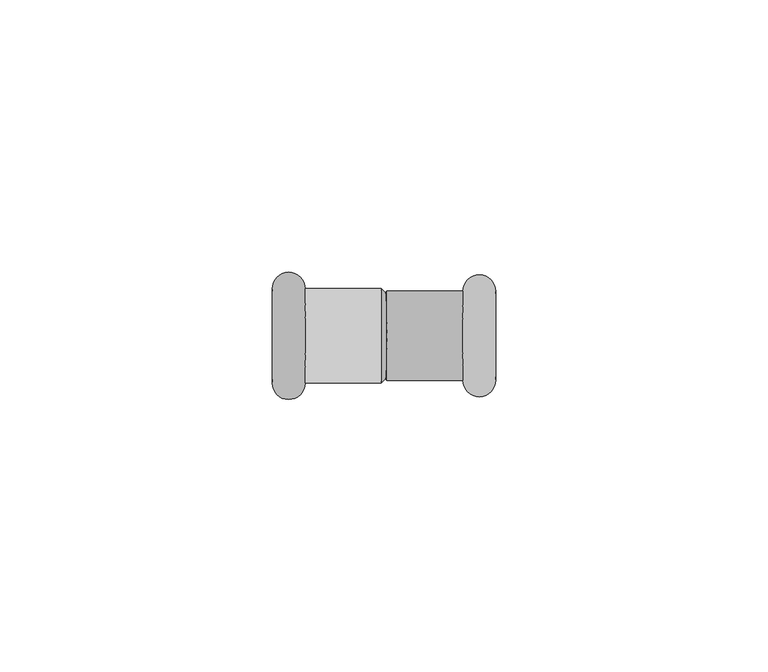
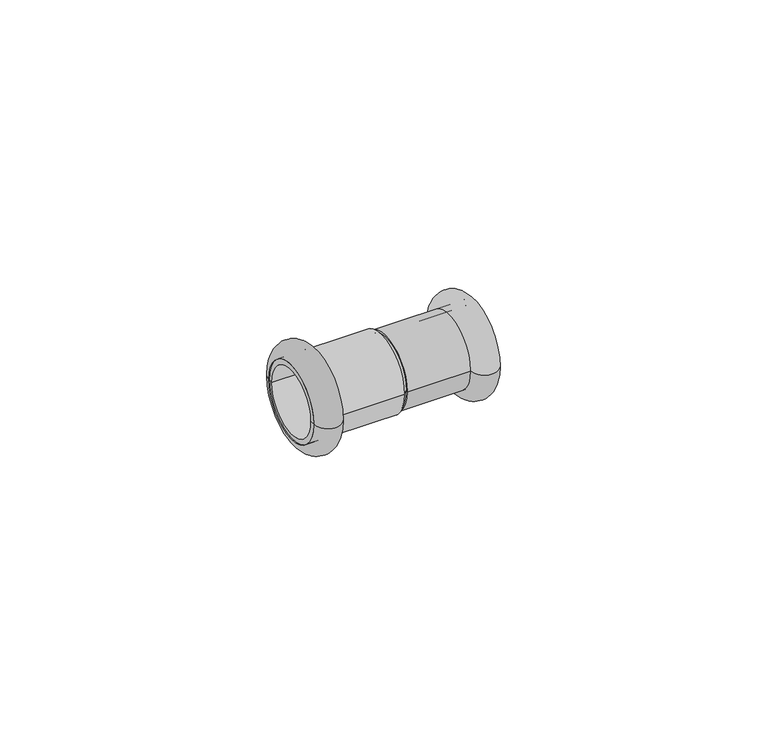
"""IFC4 building model written with IfcOpenShell, lengths in millimetres: pipe fitting geometry, NLRS_50_PIF_UN_Geberit Mapress koper verloopsok_PRO_103281 : DN12-15 / d15-18 - OD."""

from ifc_helpers import new_model, si_unit, point, frame, origin, place, context, project, spatial, polyline, circle_curve, ellipse_curve, trimmed, source, transform, mapped, element, save
from ifc_brep_helpers import plane_surface, cylinder_surface, revolved_surface, advanced_brep


def pipe_fitting_6f0e400b(model_context):
    return source(origin(), model_context, "Body", "AdvancedBrep", [
        advanced_brep(
        [(-20.5, -8.7, 0.0), (-14.5, -8.7, 0.0), (-14.5, 8.7, 0.0), (-20.5, 8.7, 0.0)],
        [
            (0, 1),
            (1, 2, circle_curve(frame((-14.5, 0.0, 0.0), z_axis=(1.0, 0.0, 0.0), x_axis=(0.0, 1.0, 0.0)), 8.7)),
            (2, 3),
            (3, 0, circle_curve(frame((-20.5, 0.0, 0.0), z_axis=(-1.0, 0.0, 0.0), x_axis=(0.0, 1.0, 0.0)), 8.7)),
            (2, 1, circle_curve(frame((-14.5, 0.0, 0.0), z_axis=(1.0, 0.0, 0.0), x_axis=(0.0, 1.0, 0.0)), 8.7)),
            (0, 3, circle_curve(frame((-20.5, 0.0, 0.0), z_axis=(-1.0, 0.0, 0.0), x_axis=(0.0, 1.0, 0.0)), 8.7)),
            (1, 0, circle_curve(frame((-17.5, -8.7, 0.0), z_axis=(0.0, 0.0, -1.0), x_axis=(-1.0, 0.0, 0.0)), 3.0)),
            (3, 2, circle_curve(frame((-17.5, 8.7, 0.0), z_axis=(0.0, 0.0, -1.0), x_axis=(-1.0, 0.0, 0.0)), 3.0)),
        ],
        [
            revolved_surface(polyline([(-14.499999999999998, 8.7, 0.0), (-20.5, 8.7, 0.0)]), (9.8779068, 0.0, 0.0), (1.0, 0.0, 0.0)),
            revolved_surface(trimmed(ellipse_curve(frame((-17.5, 8.7, 0.0), z_axis=(0.0, 0.0, -1.0), x_axis=(-1.0, 0.0, 0.0)), 3.0, 3.0), [point((-20.5, 8.7, 0.0))], [point((-14.5, 8.7, 0.0))], True, "CARTESIAN"), (9.8779068, 0.0, 0.0), (1.0, 0.0, 0.0)),
        ],
        [
            (0, [[1, 2, 3, 4]]),
            (0, [[-3, 5, -1, 6]]),
            (1, [[7, -4, 8, -2]]),
            (1, [[-8, -6, -7, -5]]),
        ],
    ),
        advanced_brep(
        [(-20.5, -7.5, 0.0), (0.7, -7.5, 0.0), (0.7, 7.5, 0.0), (-20.5, 7.5, 0.0), (-0.5, -8.7, 0.0), (-20.5, -8.7, 0.0), (-20.5, 8.7, 0.0), (-0.5, 8.7, 0.0)],
        [
            (0, 1),
            (1, 2, circle_curve(frame((0.7, 0.0, 0.0), z_axis=(1.0, 0.0, 0.0), x_axis=(0.0, 1.0, 0.0)), 7.5)),
            (2, 3),
            (3, 0, circle_curve(frame((-20.5, 0.0, 0.0), z_axis=(-1.0, 0.0, 0.0), x_axis=(0.0, 1.0, 0.0)), 7.5)),
            (2, 1, circle_curve(frame((0.7, 0.0, 0.0), z_axis=(1.0, 0.0, 0.0), x_axis=(0.0, 1.0, 0.0)), 7.5)),
            (0, 3, circle_curve(frame((-20.5, 0.0, 0.0), z_axis=(-1.0, 0.0, 0.0), x_axis=(0.0, 1.0, 0.0)), 7.5)),
            (4, 5),
            (5, 6, circle_curve(frame((-20.5, 0.0, 0.0), z_axis=(1.0, 0.0, 0.0), x_axis=(0.0, 1.0, 0.0)), 8.7)),
            (6, 7),
            (7, 4, circle_curve(frame((-0.5, 0.0, 0.0), z_axis=(-1.0, 0.0, 0.0), x_axis=(0.0, 1.0, 0.0)), 8.7)),
            (6, 5, circle_curve(frame((-20.5, 0.0, 0.0), z_axis=(1.0, 0.0, 0.0), x_axis=(0.0, 1.0, 0.0)), 8.7)),
            (4, 7, circle_curve(frame((-0.5, 0.0, 0.0), z_axis=(-1.0, 0.0, 0.0), x_axis=(0.0, 1.0, 0.0)), 8.7)),
            (5, 0),
            (3, 6),
            (1, 4),
            (7, 2),
        ],
        [
            revolved_surface(polyline([(0.7, 7.5, 0.0), (-20.5, 7.5, 0.0)]), (-0.5, 0.0, 0.0), (1.0, 0.0, 0.0)),
            cylinder_surface(frame((-0.5, 0.0, 0.0), z_axis=(1.0, 0.0, 0.0), x_axis=(0.0, 1.0, 0.0)), 8.7),
            plane_surface(frame((-20.5, 0.0, 0.0), z_axis=(-1.0, 0.0, 0.0), x_axis=(0.0, 1.0, 0.0))),
            revolved_surface(polyline([(-0.5, 8.7, 0.0), (0.7, 7.5, 0.0)]), (-0.5, 0.0, 0.0), (1.0, 0.0, 0.0)),
        ],
        [
            (0, [[1, 2, 3, 4]]),
            (0, [[-3, 5, -1, 6]]),
            (1, [[7, 8, 9, 10]]),
            (1, [[-9, 11, -7, 12]]),
            (2, [[13, -4, 14, -8]]),
            (2, [[-14, -6, -13, -11]]),
            (3, [[15, -10, 16, -2]]),
            (3, [[-16, -12, -15, -5]]),
        ],
    ),
        advanced_brep(
        [(20.5, -8.2, 0.0), (20.5, 8.2, 0.0), (14.5, 8.2, 0.0), (14.5, -8.2, 0.0)],
        [
            (0, 1, circle_curve(frame((20.5, 0.0, 0.0), z_axis=(1.0, 0.0, 0.0), x_axis=(0.0, 1.0, 0.0)), 8.2)),
            (1, 2),
            (2, 3, circle_curve(frame((14.5, 0.0, 0.0), z_axis=(-1.0, 0.0, 0.0), x_axis=(0.0, 1.0, 0.0)), 8.2)),
            (3, 0),
            (1, 0, circle_curve(frame((20.5, 0.0, 0.0), z_axis=(1.0, 0.0, 0.0), x_axis=(0.0, 1.0, 0.0)), 8.2)),
            (3, 2, circle_curve(frame((14.5, 0.0, 0.0), z_axis=(-1.0, 0.0, 0.0), x_axis=(0.0, 1.0, 0.0)), 8.2)),
            (2, 1, circle_curve(frame((17.5, 8.2, 0.0), z_axis=(0.0, 0.0, -1.0), x_axis=(1.0, 0.0, 0.0)), 3.0)),
            (0, 3, circle_curve(frame((17.5, -8.2, 0.0), z_axis=(0.0, 0.0, -1.0), x_axis=(1.0, 0.0, 0.0)), 3.0)),
        ],
        [
            revolved_surface(polyline([(14.499999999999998, 8.2, 0.0), (20.5, 8.2, 0.0)]), (-9.8779068, 0.0, 0.0), (-1.0, 0.0, 0.0)),
            revolved_surface(trimmed(ellipse_curve(frame((17.5, 8.2, 0.0), z_axis=(0.0, 0.0, 1.0), x_axis=(1.0, 0.0, 0.0)), 3.0, 3.0), [point((20.5, 8.2, 0.0))], [point((14.5, 8.2, 0.0))], True, "CARTESIAN"), (-9.8779068, 0.0, 0.0), (-1.0, 0.0, 0.0)),
        ],
        [
            (0, [[1, 2, 3, 4]]),
            (0, [[5, -4, 6, -2]]),
            (1, [[-3, 7, -1, 8]]),
            (1, [[-6, -8, -5, -7]]),
        ],
    ),
        advanced_brep(
        [(20.5, -7.0, 0.0), (20.5, 7.0, 0.0), (-0.7, 7.0, 0.0), (-0.7, -7.0, 0.0), (0.5, -8.2, 0.0), (0.5, 8.2, 0.0), (20.5, 8.2, 0.0), (20.5, -8.2, 0.0)],
        [
            (0, 1, circle_curve(frame((20.5, 0.0, 0.0), z_axis=(1.0, 0.0, 0.0), x_axis=(0.0, 1.0, 0.0)), 7.0)),
            (1, 2),
            (2, 3, circle_curve(frame((-0.7, 0.0, 0.0), z_axis=(-1.0, 0.0, 0.0), x_axis=(0.0, 1.0, 0.0)), 7.0)),
            (3, 0),
            (1, 0, circle_curve(frame((20.5, 0.0, 0.0), z_axis=(1.0, 0.0, 0.0), x_axis=(0.0, 1.0, 0.0)), 7.0)),
            (3, 2, circle_curve(frame((-0.7, 0.0, 0.0), z_axis=(-1.0, 0.0, 0.0), x_axis=(0.0, 1.0, 0.0)), 7.0)),
            (4, 5, circle_curve(frame((0.5, 0.0, 0.0), z_axis=(1.0, 0.0, 0.0), x_axis=(0.0, 1.0, 0.0)), 8.2)),
            (5, 6),
            (6, 7, circle_curve(frame((20.5, 0.0, 0.0), z_axis=(-1.0, 0.0, 0.0), x_axis=(0.0, 1.0, 0.0)), 8.2)),
            (7, 4),
            (5, 4, circle_curve(frame((0.5, 0.0, 0.0), z_axis=(1.0, 0.0, 0.0), x_axis=(0.0, 1.0, 0.0)), 8.2)),
            (7, 6, circle_curve(frame((20.5, 0.0, 0.0), z_axis=(-1.0, 0.0, 0.0), x_axis=(0.0, 1.0, 0.0)), 8.2)),
            (6, 1),
            (0, 7),
            (2, 5),
            (4, 3),
        ],
        [
            revolved_surface(polyline([(-0.7, 7.0, 0.0), (20.5, 7.0, 0.0)]), (0.5, 0.0, 0.0), (-1.0, 0.0, 0.0)),
            cylinder_surface(frame((0.5, 0.0, 0.0), z_axis=(-1.0, 0.0, 0.0), x_axis=(0.0, 1.0, 0.0)), 8.2),
            plane_surface(frame((20.5, 0.0, 0.0), z_axis=(1.0, 0.0, 0.0), x_axis=(0.0, 1.0, 0.0))),
            revolved_surface(polyline([(0.5, 8.2, 0.0), (-0.7, 7.0, 0.0)]), (0.5, 0.0, 0.0), (-1.0, 0.0, 0.0)),
        ],
        [
            (0, [[1, 2, 3, 4]]),
            (0, [[5, -4, 6, -2]]),
            (1, [[7, 8, 9, 10]]),
            (1, [[11, -10, 12, -8]]),
            (2, [[-9, 13, -1, 14]]),
            (2, [[-12, -14, -5, -13]]),
            (3, [[-3, 15, -7, 16]]),
            (3, [[-6, -16, -11, -15]]),
        ],
    ),
        advanced_brep(
        [(0.5, -6.0, 0.0), (0.5, 6.0, 0.0), (-0.5, -8.7, 0.0), (-0.5, 8.7, 0.0)],
        [
            (0, 1, circle_curve(frame((0.5, 0.0, 0.0), z_axis=(1.0, 0.0, 0.0), x_axis=(0.0, -1.0, 0.0)), 6.0)),
            (1, 0, circle_curve(frame((0.5, 0.0, 0.0), z_axis=(1.0, 0.0, 0.0), x_axis=(0.0, 1.0, 0.0)), 6.0)),
            (2, 3, circle_curve(frame((-0.5, 0.0, 0.0), z_axis=(-1.0, 0.0, 0.0), x_axis=(0.0, 1.0, 0.0)), 8.7)),
            (3, 2, circle_curve(frame((-0.5, 0.0, 0.0), z_axis=(-1.0, 0.0, 0.0), x_axis=(0.0, -1.0, 0.0)), 8.7)),
            (3, 1),
            (0, 2),
        ],
        [
            plane_surface(frame((0.5, 0.0, 0.0), z_axis=(1.0, 0.0, 0.0), x_axis=(0.0, 0.0, -1.0))),
            plane_surface(frame((-0.5, 0.0, 0.0), z_axis=(-1.0, 0.0, 0.0), x_axis=(0.0, 0.0, -1.0))),
            revolved_surface(polyline([(0.5, -5.999999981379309, 0.0), (-0.5, -8.7, 0.0)]), (2.7222222, 0.0, 0.0), (-1.0, 0.0, 0.0)),
            revolved_surface(polyline([(0.5, 5.999999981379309, 0.0), (-0.5, 8.7, 0.0)]), (2.7222222, 0.0, 0.0), (-1.0, 0.0, 0.0)),
        ],
        [
            (0, [[1, 2]]),
            (1, [[3, 4]]),
            (2, [[-4, 5, -1, 6]]),
            (3, [[-3, -6, -2, -5]]),
        ],
    ),
    ])


if __name__ == "__main__":
    model = new_model("IFC4")
    model_context = context("Model", 3, world=origin())
    ifc_project = project(units=[si_unit("LENGTHUNIT", "METRE", prefix="MILLI")], contexts=[model_context])
    site = spatial("IfcSite", under=ifc_project)
    building = spatial("IfcBuilding", under=site)
    placement = place(None, origin())
    pipe_fitting_shape = pipe_fitting_6f0e400b(model_context)
    element("IfcPipeFitting", 1, ObjectType="NLRS_50_PIF_UN_Geberit Mapress koper verloopsok_PRO_103281 : DN12-15 / d15-18 - OD", at=placement, inside=building, context=model_context, shape_type="MappedRepresentation", body=[
        mapped(pipe_fitting_shape, transform((0.0, 0.0, 0.0), x_axis=(1.0, 0.0, 0.0), y_axis=(0.0, 1.0, 0.0), z_axis=(0.0, 0.0, 1.0))),
    ])
    save(model, "model.ifc")
